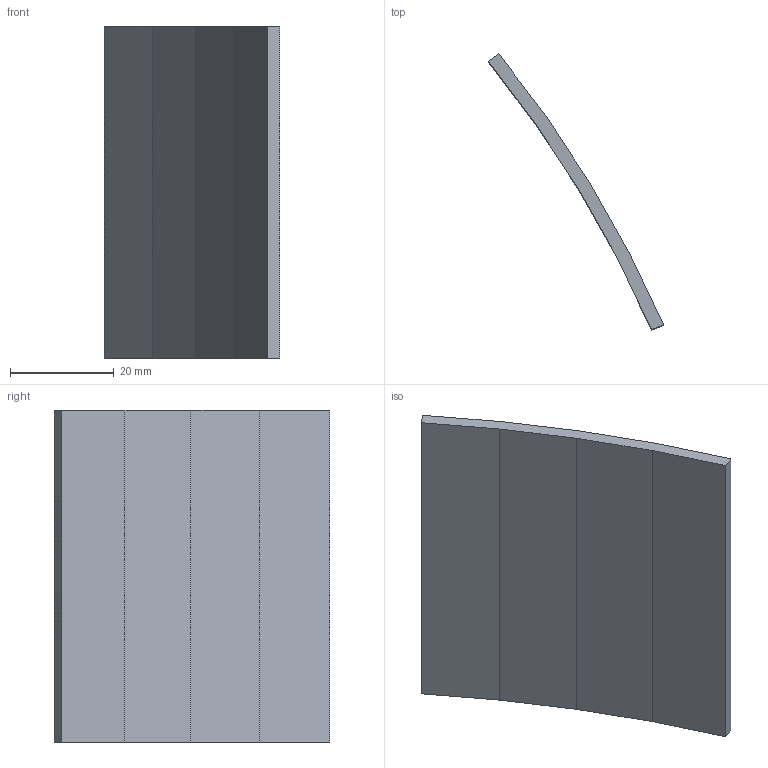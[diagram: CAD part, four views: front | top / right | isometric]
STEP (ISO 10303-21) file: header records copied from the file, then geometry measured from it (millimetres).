
FILE_DESCRIPTION(('Open CASCADE Model'),'2;1');
FILE_NAME('Open CASCADE Shape Model','2026-09-19T23:46:39',('Author'),( 'Open CASCADE'),'Open CASCADE STEP processor 7.9','Open CASCADE 7.9' ,'Unknown');
FILE_SCHEMA(('AUTOMOTIVE_DESIGN { 1 0 10303 214 1 1 1 1 }'));
Length unit declared in the file: millimetre
Products named in the file (1): Open CASCADE STEP translator 7.9 27
Bounding box: 33.75 x 53.19 x 64 mm (x, y, z)
Volume: 9749.5 mm3; surface area: 8432.2 mm2
Topology: 1 solids, 1 shells, 12 faces, 30 edges, 20 vertices
Faces by surface type: plane 12
Entity records: 724 total; most frequent: CARTESIAN_POINT 153, DIRECTION 86, ORIENTED_EDGE 60, LINE 60, VECTOR 60, PCURVE 60, DEFINITIONAL_REPRESENTATION 60, EDGE_CURVE 30
